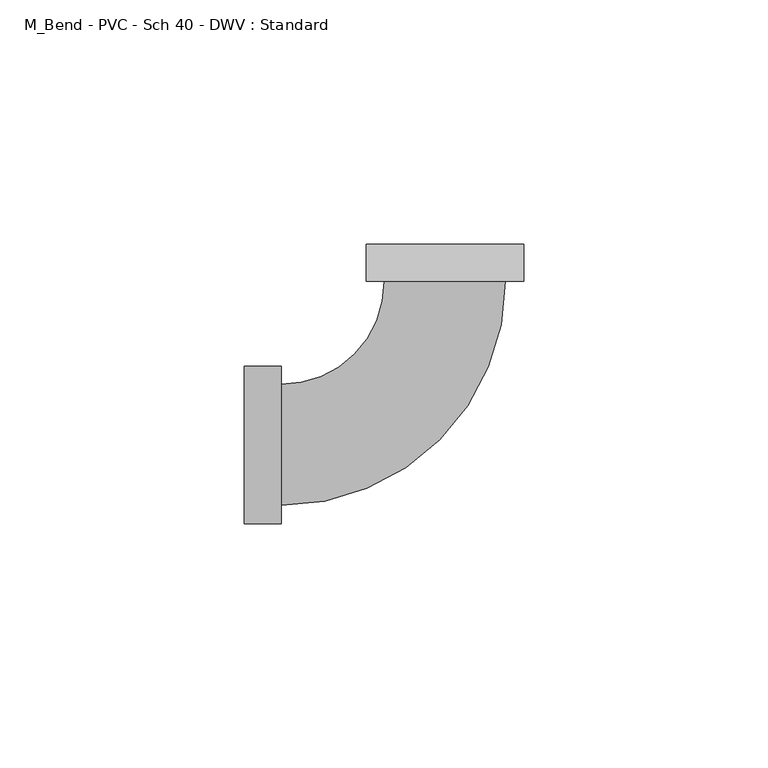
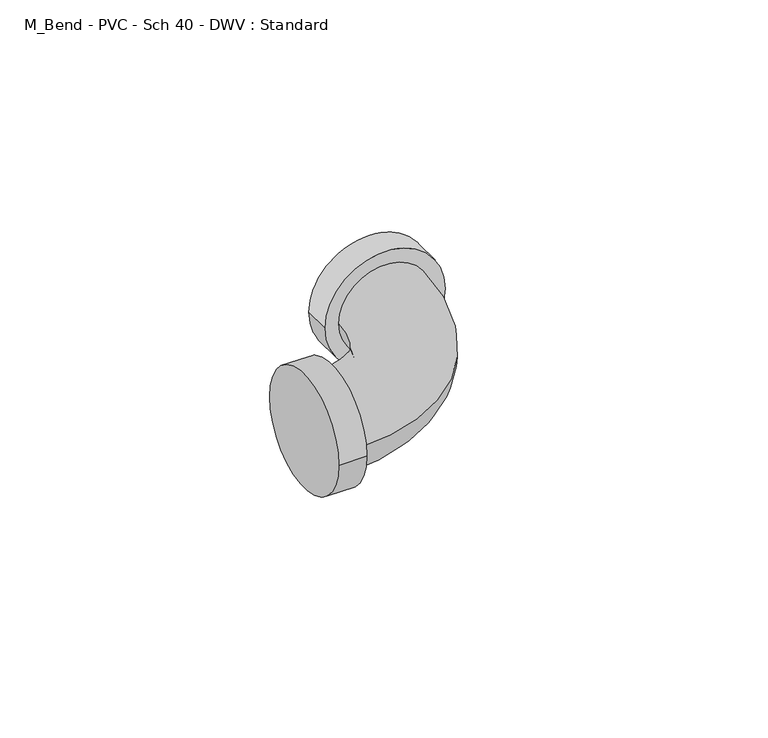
"""IFC4 building model written with IfcOpenShell, lengths in millimetres: pipe fitting geometry, M_Bend - PVC - Sch 40 - DWV : Standard."""

from ifc_helpers import new_model, si_unit, point, frame, origin, place, context, project, spatial, circle_curve, ellipse_curve, trimmed, source, transform, mapped, element, save
from ifc_brep_helpers import plane_surface, cylinder_surface, revolved_surface, advanced_brep


def m_bend_pvc_sch_40_dwv_standard_5de4d804(model_context):
    return source(origin(), model_context, "Body", "AdvancedBrep", [
        advanced_brep(
        [(-41.0140625, -16.0871094, 0.0), (-41.0140625, 16.0871094, 0.0), (-33.5140625, -16.0871094, 0.0), (-33.5140625, 16.0871094, 0.0), (-33.5140625, -12.3640625, 0.0), (-33.5140625, 12.3640625, 0.0), (-12.3642021, 33.514011, 0.0), (12.3639229, 33.514114, 0.0), (16.0869698, 33.5141295, 0.0), (-16.087249, 33.5139955, 0.0), (16.0869386, 41.0141295, 0.0), (-16.0872802, 41.0139955, 0.0)],
        [
            (0, 1, circle_curve(frame((-41.0140625, 0.0, 0.0), z_axis=(-1.0, 0.0, 0.0), x_axis=(0.0, 1.0, 0.0)), 16.0871094)),
            (1, 0, circle_curve(frame((-41.0140625, 0.0, 0.0), z_axis=(-1.0, 0.0, 0.0), x_axis=(0.0, 1.0, 0.0)), 16.0871094)),
            (2, 3, circle_curve(frame((-33.5140625, 0.0, 0.0), z_axis=(1.0, 0.0, 0.0), x_axis=(0.0, 1.0, 0.0)), 16.0871094)),
            (3, 2, circle_curve(frame((-33.5140625, 0.0, 0.0), z_axis=(1.0, 0.0, 0.0), x_axis=(0.0, 1.0, 0.0)), 16.0871094)),
            (4, 5, circle_curve(frame((-33.5140625, 0.0, 0.0), z_axis=(-1.0, 0.0, 0.0), x_axis=(0.0, 1.0, 0.0)), 12.3640625)),
            (5, 4, circle_curve(frame((-33.5140625, 0.0, 0.0), z_axis=(-1.0, 0.0, 0.0), x_axis=(0.0, 1.0, 0.0)), 12.3640625)),
            (0, 2),
            (3, 1),
            (6, 5, circle_curve(frame((-33.5140625, 33.5139229, 0.0), z_axis=(0.0, 0.0, -1.0), x_axis=(0.0, -1.0, 0.0)), 21.1498604)),
            (4, 7, circle_curve(frame((-33.5140625, 33.5139229, 0.0), z_axis=(0.0, 0.0, 1.0), x_axis=(0.0, -1.0, 0.0)), 45.8779854)),
            (7, 6, circle_curve(frame((-0.0001396, 33.5140625, 0.0), z_axis=(4.164806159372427e-06, -0.9999999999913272, 0.0), x_axis=(-0.9999999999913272, -4.164806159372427e-06, 0.0)), 12.3640625)),
            (6, 7, circle_curve(frame((-0.0001396, 33.5140625, 0.0), z_axis=(4.164806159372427e-06, -0.9999999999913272, 0.0), x_axis=(-0.9999999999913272, -4.164806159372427e-06, 0.0)), 12.3640625)),
            (8, 9, circle_curve(frame((-0.0001396, 33.5140625, 0.0), z_axis=(4.1648061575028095e-06, -0.9999999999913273, 0.0), x_axis=(-0.9999999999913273, -4.1648061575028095e-06, 0.0)), 16.0871094)),
            (9, 8, circle_curve(frame((-0.0001396, 33.5140625, 0.0), z_axis=(4.1648061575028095e-06, -0.9999999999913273, 0.0), x_axis=(-0.9999999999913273, -4.1648061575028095e-06, 0.0)), 16.0871094)),
            (10, 11, circle_curve(frame((-0.0001708, 41.0140625, 0.0), z_axis=(-4.1648061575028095e-06, 0.9999999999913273, 0.0), x_axis=(-0.9999999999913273, -4.1648061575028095e-06, 0.0)), 16.0871094)),
            (11, 10, circle_curve(frame((-0.0001708, 41.0140625, 0.0), z_axis=(-4.1648061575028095e-06, 0.9999999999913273, 0.0), x_axis=(-0.9999999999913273, -4.1648061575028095e-06, 0.0)), 16.0871094)),
            (8, 10),
            (11, 9),
        ],
        [
            plane_surface(frame((-41.0140625, 0.0, 0.0), z_axis=(-1.0, 0.0, 0.0), x_axis=(0.0, 0.0, 1.0))),
            plane_surface(frame((-33.5140625, 0.0, 0.0), z_axis=(1.0, 0.0, 0.0), x_axis=(0.0, 0.0, 1.0))),
            cylinder_surface(frame((-41.0140625, 0.0, 0.0), z_axis=(-1.0, 0.0, 0.0), x_axis=(0.0, 1.0, 0.0)), 16.0871094),
            revolved_surface(trimmed(ellipse_curve(frame((-33.5140625, 0.0, 0.0), z_axis=(-1.0, 0.0, 0.0), x_axis=(0.0, 1.0, 0.0)), 12.3640625, 12.3640625), [point((-33.5140625, -12.3640625, 0.0))], [point((-33.5140625, 12.3640625, 0.0))], True, "CARTESIAN"), (-33.5140625, 33.5139229, 0.0), (0.0, 0.0, 1.0)),
            revolved_surface(trimmed(ellipse_curve(frame((-33.5140625, 0.0, 0.0), z_axis=(-1.0, 0.0, 0.0), x_axis=(0.0, 1.0, 0.0)), 12.3640625, 12.3640625), [point((-33.5140625, 12.3640625, 0.0))], [point((-33.5140625, -12.3640625, 0.0))], True, "CARTESIAN"), (-33.5140625, 33.5139229, 0.0), (0.0, 0.0, 1.0)),
            plane_surface(frame((-0.0001396, 33.5140625, 0.0), z_axis=(4.164806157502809e-06, -0.9999999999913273, 0.0), x_axis=(0.0, 0.0, 1.0))),
            plane_surface(frame((-0.0001708, 41.0140625, 0.0), z_axis=(-4.164806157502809e-06, 0.9999999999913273, 0.0), x_axis=(0.0, 0.0, 1.0))),
            cylinder_surface(frame((-0.0001396, 33.5140625, 0.0), z_axis=(4.1648061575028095e-06, -0.9999999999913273, 0.0), x_axis=(-0.9999999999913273, -4.1648061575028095e-06, 0.0)), 16.0871094),
        ],
        [
            (0, [[1, 2]]),
            (1, [[3, 4], [5, 6]]),
            (2, [[-1, 7, -4, 8]]),
            (2, [[-2, -8, -3, -7]]),
            (3, [[9, -5, 10, 11]]),
            (4, [[-9, 12, -10, -6]]),
            (5, [[13, 14], [-11, -12]]),
            (6, [[15, 16]]),
            (7, [[-13, 17, -16, 18]]),
            (7, [[-14, -18, -15, -17]]),
        ],
    ),
    ])


if __name__ == "__main__":
    model = new_model("IFC4")
    model_context = context("Model", 3, world=origin())
    ifc_project = project(units=[si_unit("LENGTHUNIT", "METRE", prefix="MILLI")], contexts=[model_context])
    site = spatial("IfcSite", under=ifc_project)
    building = spatial("IfcBuilding", under=site)
    placement = place(None, origin())
    m_bend_pvc_sch_40_dwv_standard_shape = m_bend_pvc_sch_40_dwv_standard_5de4d804(model_context)
    element("IfcPipeFitting", 1, ObjectType="M_Bend - PVC - Sch 40 - DWV : Standard", at=placement, inside=building, context=model_context, shape_type="MappedRepresentation", body=[
        mapped(m_bend_pvc_sch_40_dwv_standard_shape, transform((0.0, 0.0, 0.0), x_axis=(1.0, 0.0, 0.0), y_axis=(0.0, 1.0, 0.0), z_axis=(0.0, 0.0, 1.0))),
    ])
    save(model, "model.ifc")
